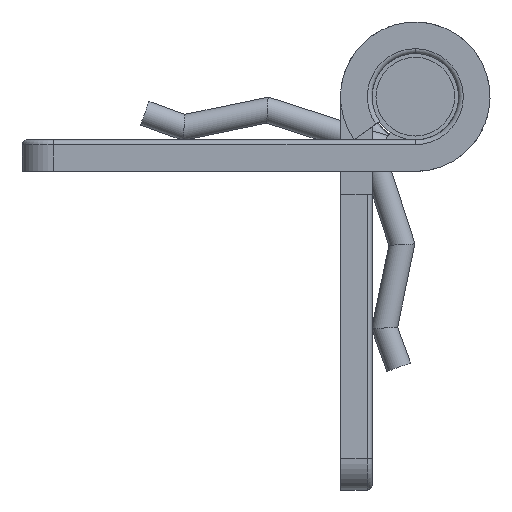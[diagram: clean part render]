
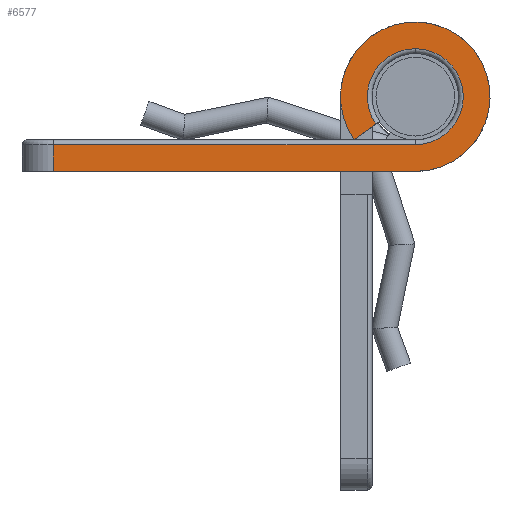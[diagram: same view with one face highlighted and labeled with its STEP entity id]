
A CAD part, front view. The second image highlights one B-rep face of the part: STEP entity #6577.
In plain terms, the highlighted planar face has unit normal (0, -1, 0).
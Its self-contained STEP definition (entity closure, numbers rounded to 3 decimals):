
#100 = ORIENTED_EDGE ( 'NONE', *, *, #327, .F. ) ;
#129 = ORIENTED_EDGE ( 'NONE', *, *, #367, .F. ) ;
#156 = EDGE_CURVE ( 'NONE', #203, #359, #4149, .T. ) ;
#180 = ORIENTED_EDGE ( 'NONE', *, *, #156, .T. ) ;
#203 = VERTEX_POINT ( 'NONE', #6154 ) ;
#213 = EDGE_CURVE ( 'NONE', #271, #203, #3345, .T. ) ;
#239 = ORIENTED_EDGE ( 'NONE', *, *, #213, .T. ) ;
#271 = VERTEX_POINT ( 'NONE', #2306 ) ;
#309 = VERTEX_POINT ( 'NONE', #2775 ) ;
#327 = EDGE_CURVE ( 'NONE', #369, #309, #2855, .T. ) ;
#359 = VERTEX_POINT ( 'NONE', #3374 ) ;
#367 = EDGE_CURVE ( 'NONE', #309, #359, #3548, .T. ) ;
#369 = VERTEX_POINT ( 'NONE', #3577 ) ;
#2306 = CARTESIAN_POINT ( 'NONE',  ( 0., -50., -3.05 ) ) ;
#2488 = CIRCLE ( 'NONE', #2489, 3.05 ) ;
#2489 = AXIS2_PLACEMENT_3D ( 'NONE', #2490, #2491, #2492 ) ;
#2490 = CARTESIAN_POINT ( 'NONE',  ( 0., -50., 0. ) ) ;
#2491 = DIRECTION ( 'NONE',  ( 0., 1., 0. ) ) ;
#2492 = DIRECTION ( 'NONE',  ( 0., 0., 1. ) ) ;
#2775 = CARTESIAN_POINT ( 'NONE',  ( 0., -50., -4.75 ) ) ;
#2855 = CIRCLE ( 'NONE', #2859, 4.75 ) ;
#2859 = AXIS2_PLACEMENT_3D ( 'NONE', #2860, #2861, #2862 ) ;
#2860 = CARTESIAN_POINT ( 'NONE',  ( 0., -50., 0. ) ) ;
#2861 = DIRECTION ( 'NONE',  ( 0., 1., 0. ) ) ;
#2862 = DIRECTION ( 'NONE',  ( 0., 0., 1. ) ) ;
#3345 = LINE ( 'NONE', #3346, #3347 ) ;
#3346 = CARTESIAN_POINT ( 'NONE',  ( 0., -50., -3.05 ) ) ;
#3347 = VECTOR ( 'NONE', #3348, 1000. ) ;
#3348 = DIRECTION ( 'NONE',  ( -1., 0., 0. ) ) ;
#3374 = CARTESIAN_POINT ( 'NONE',  ( -23., -50., -4.75 ) ) ;
#3431 = CARTESIAN_POINT ( 'NONE',  ( -2.498, -50., -1.749 ) ) ;
#3548 = LINE ( 'NONE', #3549, #3550 ) ;
#3549 = CARTESIAN_POINT ( 'NONE',  ( 0., -50., -4.75 ) ) ;
#3550 = VECTOR ( 'NONE', #3551, 1000. ) ;
#3551 = DIRECTION ( 'NONE',  ( -1., 0., 0. ) ) ;
#3577 = CARTESIAN_POINT ( 'NONE',  ( -3.891, -50., -2.724 ) ) ;
#3623 = CIRCLE ( 'NONE', #3624, 3.05 ) ;
#3624 = AXIS2_PLACEMENT_3D ( 'NONE', #3625, #3626, #3628 ) ;
#3625 = CARTESIAN_POINT ( 'NONE',  ( 0., -50., 0. ) ) ;
#3626 = DIRECTION ( 'NONE',  ( 0., 1., 0. ) ) ;
#3628 = DIRECTION ( 'NONE',  ( 0., 0., 1. ) ) ;
#4047 = FACE_OUTER_BOUND ( 'NONE', #6355, .T. ) ;
#4048 = PLANE ( 'NONE',  #4049 ) ;
#4049 = AXIS2_PLACEMENT_3D ( 'NONE', #4051, #4052, #4053 ) ;
#4051 = CARTESIAN_POINT ( 'NONE',  ( 0., -50., 0. ) ) ;
#4052 = DIRECTION ( 'NONE',  ( 0., 1., 0. ) ) ;
#4053 = DIRECTION ( 'NONE',  ( 0., 0., 1. ) ) ;
#4147 = CARTESIAN_POINT ( 'NONE',  ( 0., -50., 3.05 ) ) ;
#4149 = LINE ( 'NONE', #4150, #4151 ) ;
#4150 = CARTESIAN_POINT ( 'NONE',  ( -23., -50., 0. ) ) ;
#4151 = VECTOR ( 'NONE', #4152, 1000. ) ;
#4152 = DIRECTION ( 'NONE',  ( 0., 0., -1. ) ) ;
#4766 = EDGE_CURVE ( 'NONE', #6778, #271, #2488, .T. ) ;
#4921 = ORIENTED_EDGE ( 'NONE', *, *, #4766, .T. ) ;
#5396 = ORIENTED_EDGE ( 'NONE', *, *, #6052, .T. ) ;
#5847 = VERTEX_POINT ( 'NONE', #3431 ) ;
#5884 = ORIENTED_EDGE ( 'NONE', *, *, #6795, .F. ) ;
#5961 = LINE ( 'NONE', #5962, #5963 ) ;
#5962 = CARTESIAN_POINT ( 'NONE',  ( -2.253, -50., -1.577 ) ) ;
#5963 = VECTOR ( 'NONE', #5964, 1000. ) ;
#5964 = DIRECTION ( 'NONE',  ( -0.819, 0., -0.574 ) ) ;
#6052 = EDGE_CURVE ( 'NONE', #5847, #6778, #3623, .T. ) ;
#6154 = CARTESIAN_POINT ( 'NONE',  ( -23., -50., -3.05 ) ) ;
#6355 = EDGE_LOOP ( 'NONE', ( #5884, #5396, #4921, #239, #180, #129, #100 ) ) ;
#6577 = ADVANCED_FACE ( 'NONE', ( #4047 ), #4048, .F. ) ;
#6778 = VERTEX_POINT ( 'NONE', #4147 ) ;
#6795 = EDGE_CURVE ( 'NONE', #5847, #369, #5961, .T. ) ;
